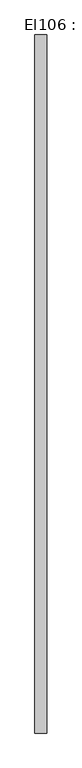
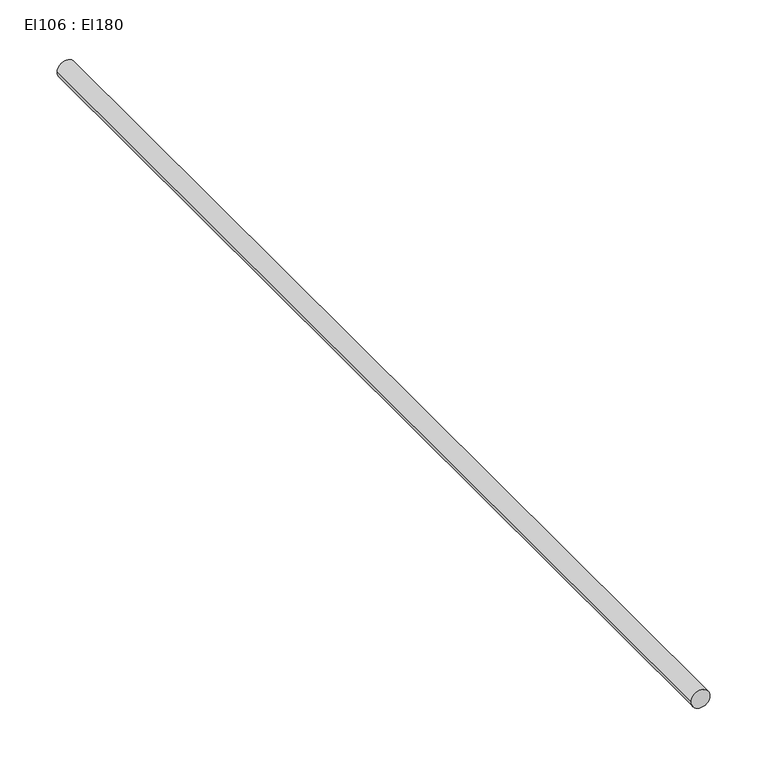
"""IFC4 building model written with IfcOpenShell, lengths in millimetres: cable carrier segment geometry, El106 : El180."""

from ifc_helpers import new_model, si_unit, point, frame, frame_2d, origin, place, context, project, spatial, circle_curve, trimmed, segment, composite_curve, outline, extrude, source, transform, mapped, element, save


def el106_el180_e81ac86b(model_context):
    return source(origin(), model_context, "Body", "SweptSolid", [
        extrude(outline(composite_curve([segment(trimmed(circle_curve(frame_2d((1800.0, 5364.4746511)), 9.5), [point((1800.0, 5354.9746511))], [point((1800.0, 5373.9746511))], False, "CARTESIAN"), True, "CONTINUOUS"), segment(trimmed(circle_curve(frame_2d((1800.0, 5364.4746511)), 9.5), [point((1800.0, 5373.9746511))], [point((1800.0, 5354.9746511))], False, "CARTESIAN"), True, "CONTINUOUS")], self_intersect=False)), frame((0.0, 22317.2241745, 0.0), z_axis=(0.0, 1.0, 0.0), x_axis=(0.0, 0.0, 1.0)), (0.0, 0.0, 1.0), 1110.38),
    ])


if __name__ == "__main__":
    model = new_model("IFC4")
    model_context = context("Model", 3, world=origin())
    ifc_project = project(units=[si_unit("LENGTHUNIT", "METRE", prefix="MILLI")], contexts=[model_context])
    site = spatial("IfcSite", under=ifc_project)
    building = spatial("IfcBuilding", under=site)
    placement = place(None, origin())
    el106_el180_shape = el106_el180_e81ac86b(model_context)
    element("IfcCableCarrierSegment", 1, ObjectType="El106 : El180", at=placement, inside=building, context=model_context, shape_type="MappedRepresentation", body=[
        mapped(el106_el180_shape, transform((0.0, 0.0, 0.0), x_axis=(1.0, 0.0, 0.0), y_axis=(0.0, 1.0, 0.0), z_axis=(0.0, 0.0, 1.0))),
    ])
    save(model, "model.ifc")
